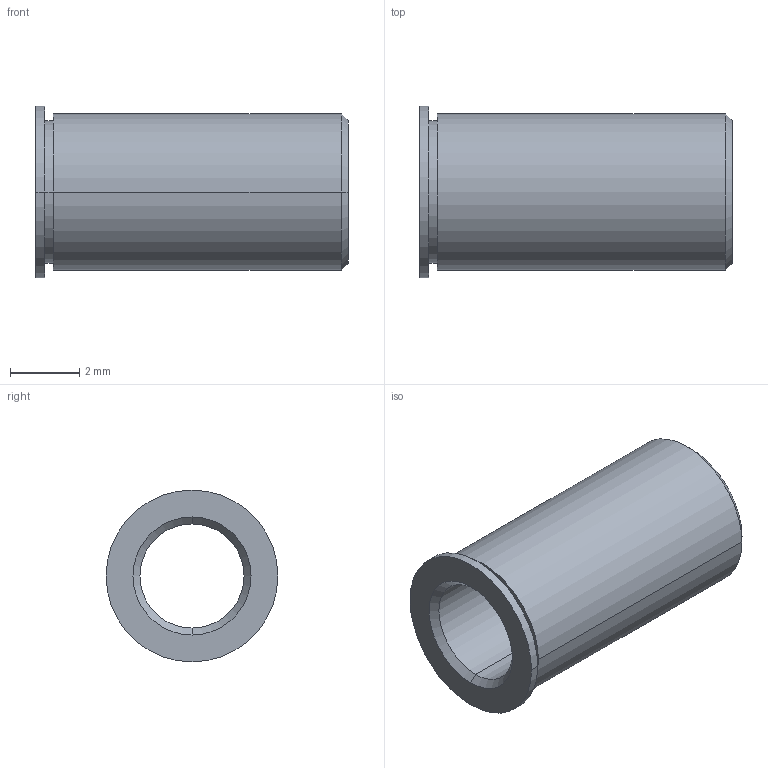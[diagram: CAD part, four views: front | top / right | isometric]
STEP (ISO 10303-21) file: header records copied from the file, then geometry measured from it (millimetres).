
FILE_DESCRIPTION (( 'STEP AP214' ), '1' );
FILE_NAME ('TB3-20-09-S.STEP', '2013-08-27T13:53:24', ( 'workpc' ), ( 'Microsoft' ), 'SwSTEP 2.0', 'SolidWorks 2013', '' );
FILE_SCHEMA (( 'AUTOMOTIVE_DESIGN' ));
Length unit declared in the file: millimetre
Products named in the file (1): TB3-20-09-S
Bounding box: 9 x 4.95 x 4.95 mm (x, y, z)
Volume: 79 mm3; surface area: 238 mm2
Topology: 1 solids, 1 shells, 18 faces, 36 edges, 22 vertices
Faces by surface type: cylinder 8, cone 6, plane 4
Entity records: 534 total; most frequent: DIRECTION 96, CARTESIAN_POINT 77, ORIENTED_EDGE 72, AXIS2_PLACEMENT_3D 41, EDGE_CURVE 36, CIRCLE 22, EDGE_LOOP 22, VERTEX_POINT 22
